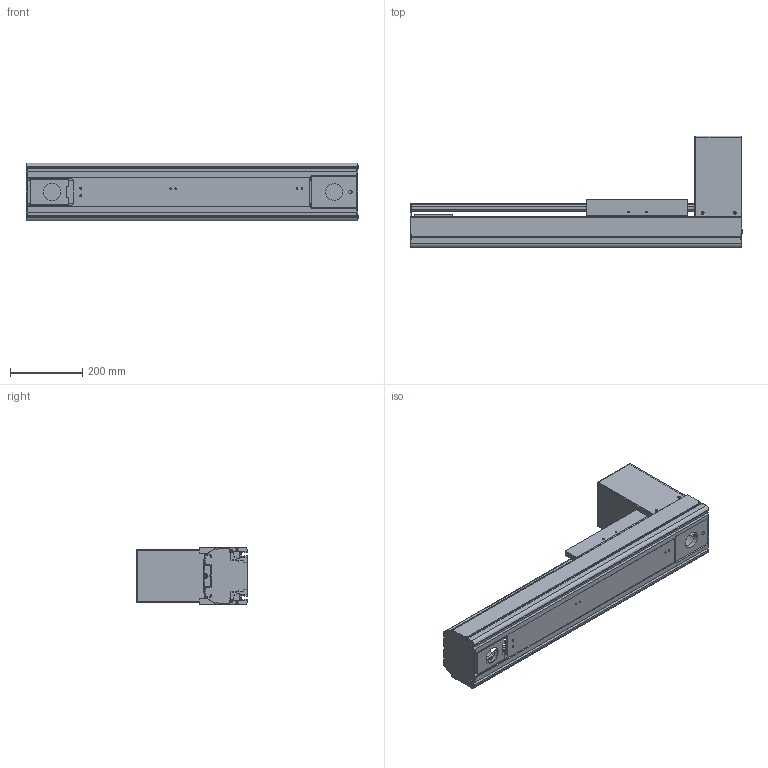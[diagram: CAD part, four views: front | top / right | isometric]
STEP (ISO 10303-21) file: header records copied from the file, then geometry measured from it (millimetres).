
FILE_DESCRIPTION((''),'2;1');
FILE_NAME('BE50G-BT-L19N-35_IGS_PRT','2017-06-18T',(' '),(''),'PRO/ENGINEER BY PARAMETRIC TECHNOLOGY CORPORATION, 2015030','PRO/ENGINEER BY PARAMETRIC TECHNOLOGY CORPORATION, 2015030','');
FILE_SCHEMA(('CONFIG_CONTROL_DESIGN'));
Length unit declared in the file: millimetre
Products named in the file (1): BE50G-BT-L19N-35_IGS_PRT
Bounding box: 920 x 309 x 160 mm (x, y, z)
Volume: 5414695.1 mm3; surface area: 1989245.6 mm2
Topology: 2 solids, 123 shells, 1774 faces, 4833 edges, 3175 vertices
Faces by surface type: cylinder 851, plane 768, cone 112, sphere 23, torus 20
Entity records: 57946 total; most frequent: CARTESIAN_POINT 12266, DIRECTION 9726, ORIENTED_EDGE 9090, EDGE_CURVE 4759, AXIS2_PLACEMENT_3D 3597, VERTEX_POINT 3175, VECTOR 2532, LINE 2532
